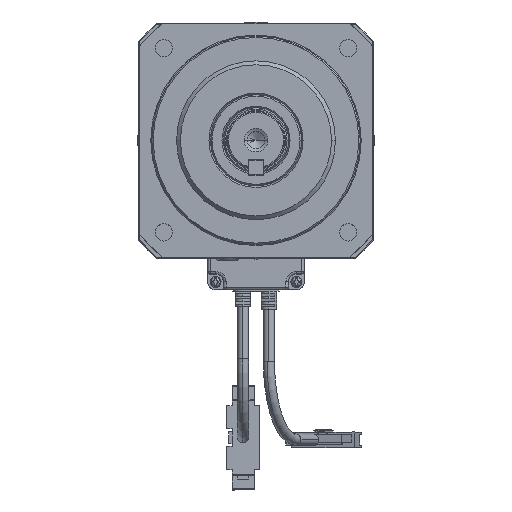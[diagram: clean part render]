
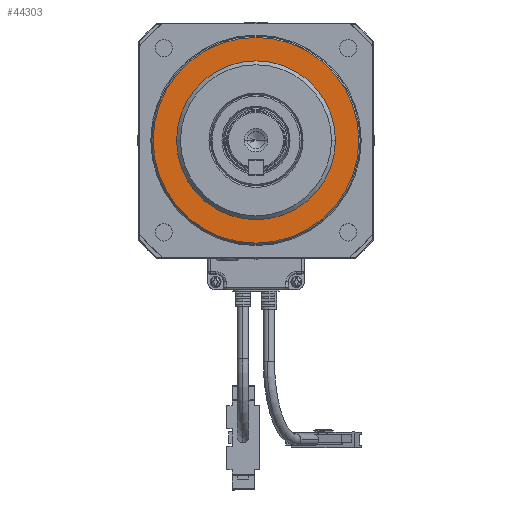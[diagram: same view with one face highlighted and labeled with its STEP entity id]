
A CAD part, top view. The second image highlights one B-rep face of the part: STEP entity #44303.
In plain terms, the highlighted planar face has unit normal (0, 0, 1).
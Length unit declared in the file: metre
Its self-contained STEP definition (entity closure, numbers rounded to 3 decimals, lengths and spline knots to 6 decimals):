
#1526 = CARTESIAN_POINT ( 'NONE',  ( 0., 0., 0.009 ) ) ;
#1527 = DIRECTION ( 'NONE',  ( 0., 0., 1. ) ) ;
#1528 = DIRECTION ( 'NONE',  ( 1., 0., 0. ) ) ;
#2574 = CARTESIAN_POINT ( 'NONE',  ( -0.04345, -0.04345, 0.009 ) ) ;
#2577 = PLANE ( 'NONE',  #12164 ) ;
#2579 = DIRECTION ( 'NONE',  ( 0., 0., 1. ) ) ;
#2580 = DIRECTION ( 'NONE',  ( 1., 0., 0. ) ) ;
#3455 = FACE_OUTER_BOUND ( 'NONE', #12727, .T. ) ;
#3470 = FACE_BOUND ( 'NONE', #12737, .T. ) ;
#5940 = AXIS2_PLACEMENT_3D ( 'NONE', #24170, #24171, #24172 ) ;
#5941 = AXIS2_PLACEMENT_3D ( 'NONE', #24173, #24174, #24175 ) ;
#6002 = AXIS2_PLACEMENT_3D ( 'NONE', #24620, #24621, #24622 ) ;
#6310 = AXIS2_PLACEMENT_3D ( 'NONE', #1526, #1527, #1528 ) ;
#8303 = CIRCLE ( 'NONE', #6310, 0.0395 ) ;
#9783 = VERTEX_POINT ( 'NONE', #31893 ) ;
#12164 = AXIS2_PLACEMENT_3D ( 'NONE', #2574, #2579, #2580 ) ;
#12727 = EDGE_LOOP ( 'NONE', ( #27140, #27144 ) ) ;
#12737 = EDGE_LOOP ( 'NONE', ( #27148, #27152 ) ) ;
#17573 = CIRCLE ( 'NONE', #5940, 0.0395 ) ;
#17577 = CIRCLE ( 'NONE', #5941, 0.0305 ) ;
#17832 = CIRCLE ( 'NONE', #6002, 0.0305 ) ;
#18316 = VERTEX_POINT ( 'NONE', #36666 ) ;
#18545 = VERTEX_POINT ( 'NONE', #36895 ) ;
#18548 = VERTEX_POINT ( 'NONE', #36898 ) ;
#24170 = CARTESIAN_POINT ( 'NONE',  ( 0., 0., 0.009 ) ) ;
#24171 = DIRECTION ( 'NONE',  ( 0., 0., 1. ) ) ;
#24172 = DIRECTION ( 'NONE',  ( 1., 0., 0. ) ) ;
#24173 = CARTESIAN_POINT ( 'NONE',  ( 0., 0., 0.009 ) ) ;
#24174 = DIRECTION ( 'NONE',  ( 0., 0., -1. ) ) ;
#24175 = DIRECTION ( 'NONE',  ( -1., 0., 0. ) ) ;
#24620 = CARTESIAN_POINT ( 'NONE',  ( 0., 0., 0.009 ) ) ;
#24621 = DIRECTION ( 'NONE',  ( 0., 0., -1. ) ) ;
#24622 = DIRECTION ( 'NONE',  ( -1., 0., 0. ) ) ;
#25378 = EDGE_CURVE ( 'NONE', #18316, #9783, #17573, .T. ) ;
#25380 = EDGE_CURVE ( 'NONE', #18545, #18548, #17577, .T. ) ;
#25774 = EDGE_CURVE ( 'NONE', #18548, #18545, #17832, .T. ) ;
#27140 = ORIENTED_EDGE ( 'NONE', *, *, #25378, .T. ) ;
#27144 = ORIENTED_EDGE ( 'NONE', *, *, #29047, .T. ) ;
#27148 = ORIENTED_EDGE ( 'NONE', *, *, #25774, .T. ) ;
#27152 = ORIENTED_EDGE ( 'NONE', *, *, #25380, .T. ) ;
#29047 = EDGE_CURVE ( 'NONE', #9783, #18316, #8303, .T. ) ;
#31893 = CARTESIAN_POINT ( 'NONE',  ( 0.0395, 0., 0.009 ) ) ;
#36666 = CARTESIAN_POINT ( 'NONE',  ( -0.0395, 0., 0.009 ) ) ;
#36895 = CARTESIAN_POINT ( 'NONE',  ( 0.0305, 0., 0.009 ) ) ;
#36898 = CARTESIAN_POINT ( 'NONE',  ( -0.0305, 0., 0.009 ) ) ;
#44303 = ADVANCED_FACE ( 'NONE', ( #3455, #3470 ), #2577, .T. ) ;
